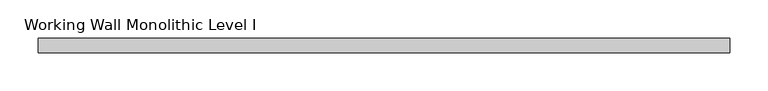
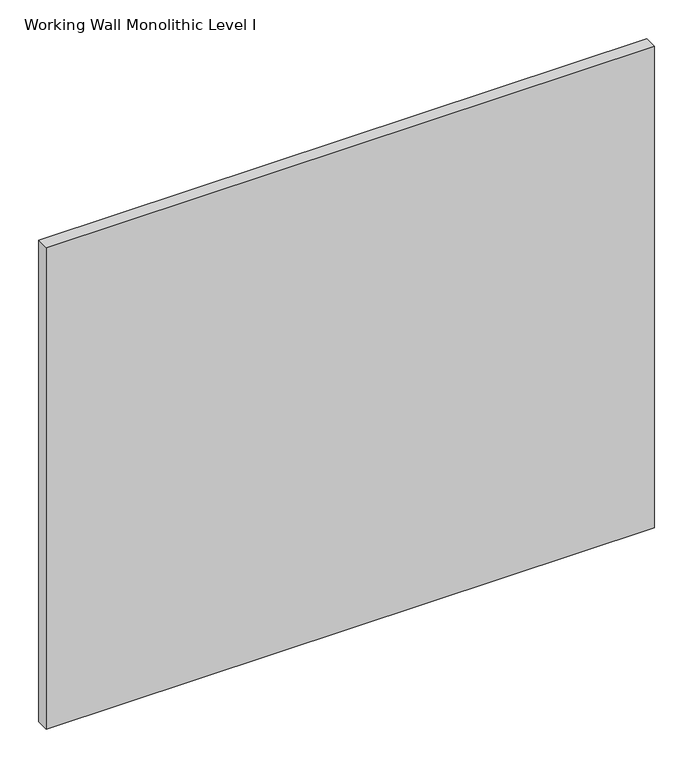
"""IFC4 building model written with IfcOpenShell, lengths in millimetres: proxy geometry, Panel-Fascia-Teknion-Altos-Standard : Working Wall Monolithic Level I."""

from ifc_helpers import new_model, si_unit, frame, origin, place, context, project, spatial, polyline, outline, extrude, source, transform, mapped, element, save


def working_wall_monolithic_level_i_588f7e64(model_context):
    return source(origin(), model_context, "Body", "SweptSolid", [
        extrude(outline(polyline([(454.025, 9.525), (454.025, -9.525), (-454.025, -9.525), (-454.025, 9.525), (454.025, 9.525)])), frame((0.0, 0.0, 3.175), z_axis=(0.0, 0.0, 1.0), x_axis=(1.0, 0.0, 0.0)), (0.0, 0.0, 1.0), 759.968),
    ])


if __name__ == "__main__":
    model = new_model("IFC4")
    model_context = context("Model", 3, world=origin())
    ifc_project = project(units=[si_unit("LENGTHUNIT", "METRE", prefix="MILLI")], contexts=[model_context])
    site = spatial("IfcSite", under=ifc_project)
    building = spatial("IfcBuilding", under=site)
    placement = place(None, origin())
    working_wall_monolithic_level_i_shape = working_wall_monolithic_level_i_588f7e64(model_context)
    element("IfcBuildingElementProxy", 1, Name="Panel-Fascia-Teknion-Altos-Standard : Working Wall Monolithic Level I", ObjectType="Panel-Fascia-Teknion-Altos-Standard : Working Wall Monolithic Level I", at=placement, inside=building, context=model_context, shape_type="MappedRepresentation", body=[
        mapped(working_wall_monolithic_level_i_shape, transform((0.0, 0.0, 0.0), x_axis=(1.0, 0.0, 0.0), y_axis=(0.0, 1.0, 0.0), z_axis=(0.0, 0.0, 1.0))),
    ])
    save(model, "model.ifc")
